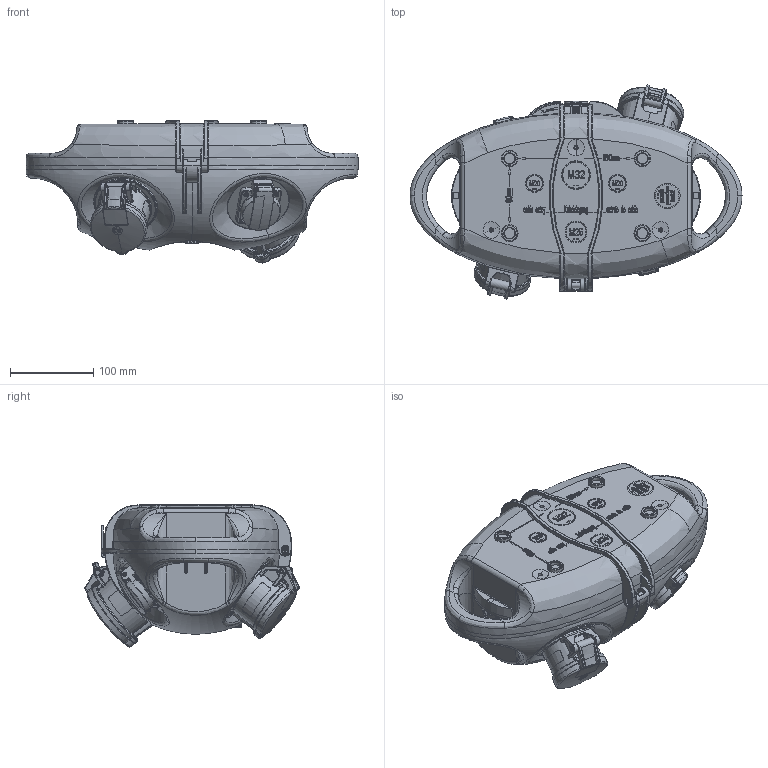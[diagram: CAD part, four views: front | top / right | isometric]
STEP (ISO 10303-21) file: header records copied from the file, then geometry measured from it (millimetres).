
FILE_DESCRIPTION((''),'2;1');
FILE_NAME('1117453_ASM_SW0001','2018-06-27T',('gisse'),('MENNEKES'),'PRO/ENGINEER BY PARAMETRIC TECHNOLOGY CORPORATION, 2015440','PRO/ENGINEER BY PARAMETRIC TECHNOLOGY CORPORATION, 2015440','');
FILE_SCHEMA(('AUTOMOTIVE_DESIGN { 1 0 10303 214 1 1 1 1 }'));
Products named in the file (1): 1117453_ASM_SW0001
Bounding box: 400 x 258.24 x 171.17 mm (x, y, z)
Volume: 6679328.2 mm3; surface area: 307665.3 mm2
Topology: 3 solids, 5 shells, 6696 faces, 18095 edges, 11589 vertices
Faces by surface type: plane 4135, cylinder 830, bspline 590, torus 483, extrusion 273, cone 269, sphere 104, revolution 12
Entity records: 357097 total; most frequent: CARTESIAN_POINT 116977, ORIENTED_EDGE 36082, DIRECTION 29707, EDGE_CURVE 18041, FILL_AREA_STYLE_COLOUR 12788, FILL_AREA_STYLE 12788, SURFACE_STYLE_FILL_AREA 12788, SURFACE_SIDE_STYLE 12788
